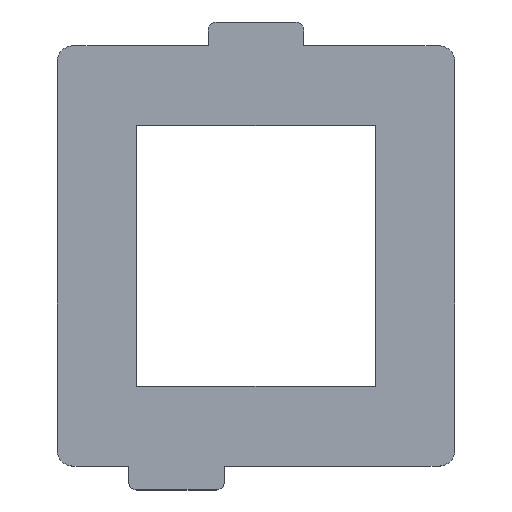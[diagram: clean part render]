
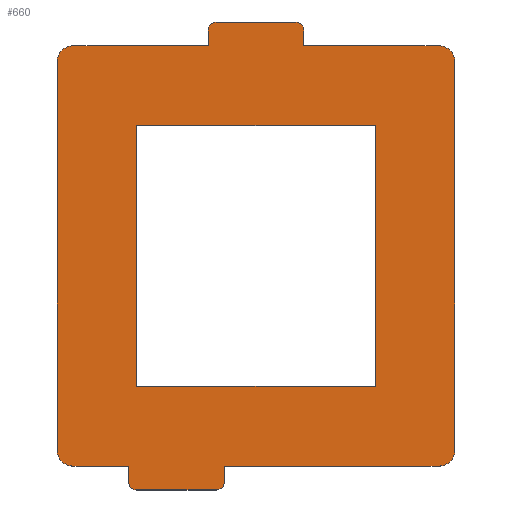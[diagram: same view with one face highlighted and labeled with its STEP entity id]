
A CAD part, top view. The second image highlights one B-rep face of the part: STEP entity #660.
In plain terms, the highlighted planar face has unit normal (0, 0, 1).
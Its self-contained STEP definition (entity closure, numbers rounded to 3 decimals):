
#24=FACE_BOUND('',#128,.T.);
#46=PLANE('',#738);
#82=FACE_OUTER_BOUND('',#127,.T.);
#127=EDGE_LOOP('',(#587,#588,#589,#590,#591,#592,#593,#594,#595,#596,#597,
#598,#599,#600,#601,#602,#603,#604,#605,#606));
#128=EDGE_LOOP('',(#607,#608,#609,#610));
#147=LINE('',#997,#209);
#153=LINE('',#1012,#215);
#156=LINE('',#1021,#218);
#159=LINE('',#1026,#221);
#160=LINE('',#1029,#222);
#162=LINE('',#1033,#224);
#165=LINE('',#1038,#227);
#166=LINE('',#1040,#228);
#167=LINE('',#1043,#229);
#170=LINE('',#1048,#232);
#174=LINE('',#1065,#236);
#178=LINE('',#1076,#240);
#184=LINE('',#1105,#246);
#186=LINE('',#1109,#248);
#188=LINE('',#1113,#250);
#190=LINE('',#1116,#252);
#209=VECTOR('',#791,10.);
#215=VECTOR('',#807,10.);
#218=VECTOR('',#816,10.);
#221=VECTOR('',#821,10.);
#222=VECTOR('',#824,10.);
#224=VECTOR('',#828,10.);
#227=VECTOR('',#833,10.);
#228=VECTOR('',#836,10.);
#229=VECTOR('',#839,10.);
#232=VECTOR('',#844,10.);
#236=VECTOR('',#862,10.);
#240=VECTOR('',#876,10.);
#246=VECTOR('',#916,10.);
#248=VECTOR('',#920,10.);
#250=VECTOR('',#924,10.);
#252=VECTOR('',#928,10.);
#253=CIRCLE('',#676,0.5);
#266=CIRCLE('',#692,0.5);
#267=CIRCLE('',#694,0.5);
#268=CIRCLE('',#697,0.5);
#273=CIRCLE('',#714,1.);
#274=CIRCLE('',#716,1.);
#275=CIRCLE('',#719,1.);
#276=CIRCLE('',#721,1.);
#281=VERTEX_POINT('',#933);
#282=VERTEX_POINT('',#934);
#311=VERTEX_POINT('',#996);
#312=VERTEX_POINT('',#1000);
#313=VERTEX_POINT('',#1004);
#314=VERTEX_POINT('',#1005);
#315=VERTEX_POINT('',#1010);
#316=VERTEX_POINT('',#1014);
#317=VERTEX_POINT('',#1015);
#318=VERTEX_POINT('',#1020);
#319=VERTEX_POINT('',#1024);
#320=VERTEX_POINT('',#1028);
#321=VERTEX_POINT('',#1032);
#322=VERTEX_POINT('',#1036);
#323=VERTEX_POINT('',#1042);
#324=VERTEX_POINT('',#1046);
#329=VERTEX_POINT('',#1062);
#330=VERTEX_POINT('',#1064);
#331=VERTEX_POINT('',#1070);
#332=VERTEX_POINT('',#1074);
#337=VERTEX_POINT('',#1102);
#338=VERTEX_POINT('',#1104);
#339=VERTEX_POINT('',#1108);
#340=VERTEX_POINT('',#1112);
#341=EDGE_CURVE('',#281,#282,#253,.T.);
#372=EDGE_CURVE('',#311,#282,#147,.T.);
#374=EDGE_CURVE('',#311,#312,#266,.T.);
#376=EDGE_CURVE('',#313,#314,#267,.T.);
#380=EDGE_CURVE('',#313,#315,#153,.T.);
#381=EDGE_CURVE('',#316,#317,#268,.T.);
#384=EDGE_CURVE('',#318,#317,#156,.T.);
#387=EDGE_CURVE('',#281,#319,#159,.T.);
#388=EDGE_CURVE('',#320,#312,#160,.T.);
#390=EDGE_CURVE('',#321,#320,#162,.T.);
#393=EDGE_CURVE('',#319,#322,#165,.T.);
#394=EDGE_CURVE('',#316,#314,#166,.T.);
#395=EDGE_CURVE('',#323,#318,#167,.T.);
#398=EDGE_CURVE('',#315,#324,#170,.T.);
#406=EDGE_CURVE('',#330,#329,#174,.T.);
#408=EDGE_CURVE('',#323,#329,#273,.T.);
#409=EDGE_CURVE('',#331,#324,#274,.T.);
#412=EDGE_CURVE('',#331,#332,#178,.T.);
#413=EDGE_CURVE('',#330,#322,#275,.T.);
#414=EDGE_CURVE('',#321,#332,#276,.T.);
#424=EDGE_CURVE('',#338,#337,#184,.T.);
#426=EDGE_CURVE('',#339,#338,#186,.T.);
#428=EDGE_CURVE('',#340,#339,#188,.T.);
#430=EDGE_CURVE('',#337,#340,#190,.T.);
#587=ORIENTED_EDGE('',*,*,#341,.F.);
#588=ORIENTED_EDGE('',*,*,#387,.T.);
#589=ORIENTED_EDGE('',*,*,#393,.T.);
#590=ORIENTED_EDGE('',*,*,#413,.F.);
#591=ORIENTED_EDGE('',*,*,#406,.T.);
#592=ORIENTED_EDGE('',*,*,#408,.F.);
#593=ORIENTED_EDGE('',*,*,#395,.T.);
#594=ORIENTED_EDGE('',*,*,#384,.T.);
#595=ORIENTED_EDGE('',*,*,#381,.F.);
#596=ORIENTED_EDGE('',*,*,#394,.T.);
#597=ORIENTED_EDGE('',*,*,#376,.F.);
#598=ORIENTED_EDGE('',*,*,#380,.T.);
#599=ORIENTED_EDGE('',*,*,#398,.T.);
#600=ORIENTED_EDGE('',*,*,#409,.F.);
#601=ORIENTED_EDGE('',*,*,#412,.T.);
#602=ORIENTED_EDGE('',*,*,#414,.F.);
#603=ORIENTED_EDGE('',*,*,#390,.T.);
#604=ORIENTED_EDGE('',*,*,#388,.T.);
#605=ORIENTED_EDGE('',*,*,#374,.F.);
#606=ORIENTED_EDGE('',*,*,#372,.T.);
#607=ORIENTED_EDGE('',*,*,#430,.T.);
#608=ORIENTED_EDGE('',*,*,#428,.T.);
#609=ORIENTED_EDGE('',*,*,#426,.T.);
#610=ORIENTED_EDGE('',*,*,#424,.T.);
#660=ADVANCED_FACE('',(#82,#24),#46,.T.);
#676=AXIS2_PLACEMENT_3D('',#935,#743,#744);
#692=AXIS2_PLACEMENT_3D('',#1001,#795,#796);
#694=AXIS2_PLACEMENT_3D('',#1006,#800,#801);
#697=AXIS2_PLACEMENT_3D('',#1016,#810,#811);
#714=AXIS2_PLACEMENT_3D('',#1068,#866,#867);
#716=AXIS2_PLACEMENT_3D('',#1071,#870,#871);
#719=AXIS2_PLACEMENT_3D('',#1078,#879,#880);
#721=AXIS2_PLACEMENT_3D('',#1080,#883,#884);
#738=AXIS2_PLACEMENT_3D('',#1117,#929,#930);
#743=DIRECTION('center_axis',(0.,0.,-1.));
#744=DIRECTION('ref_axis',(-0.707,0.707,0.));
#791=DIRECTION('',(-1.,0.,0.));
#795=DIRECTION('center_axis',(0.,0.,-1.));
#796=DIRECTION('ref_axis',(0.707,0.707,0.));
#800=DIRECTION('center_axis',(0.,0.,-1.));
#801=DIRECTION('ref_axis',(0.707,-0.707,0.));
#807=DIRECTION('',(0.,1.,0.));
#810=DIRECTION('center_axis',(0.,0.,-1.));
#811=DIRECTION('ref_axis',(-0.707,-0.707,0.));
#816=DIRECTION('',(0.,-1.,0.));
#821=DIRECTION('',(0.,-1.,0.));
#824=DIRECTION('',(0.,1.,0.));
#828=DIRECTION('',(-1.,0.,0.));
#833=DIRECTION('',(-1.,0.,0.));
#836=DIRECTION('',(1.,0.,0.));
#839=DIRECTION('',(1.,0.,0.));
#844=DIRECTION('',(1.,0.,0.));
#862=DIRECTION('',(0.,-1.,0.));
#866=DIRECTION('center_axis',(0.,0.,-1.));
#867=DIRECTION('ref_axis',(-0.707,-0.707,0.));
#870=DIRECTION('center_axis',(0.,0.,-1.));
#871=DIRECTION('ref_axis',(0.707,-0.707,0.));
#876=DIRECTION('',(0.,1.,0.));
#879=DIRECTION('center_axis',(0.,0.,-1.));
#880=DIRECTION('ref_axis',(-0.707,0.707,0.));
#883=DIRECTION('center_axis',(0.,0.,-1.));
#884=DIRECTION('ref_axis',(0.707,0.707,0.));
#916=DIRECTION('',(0.,-1.,0.));
#920=DIRECTION('',(1.,0.,0.));
#924=DIRECTION('',(0.,1.,0.));
#928=DIRECTION('',(-1.,0.,0.));
#929=DIRECTION('center_axis',(0.,0.,1.));
#930=DIRECTION('ref_axis',(1.,0.,0.));
#933=CARTESIAN_POINT('',(-3.,13.5,3.));
#934=CARTESIAN_POINT('',(-2.5,14.,3.));
#935=CARTESIAN_POINT('Origin',(-2.5,13.5,3.));
#996=CARTESIAN_POINT('',(2.5,14.,3.));
#997=CARTESIAN_POINT('',(-3.,14.,3.));
#1000=CARTESIAN_POINT('',(3.,13.5,3.));
#1001=CARTESIAN_POINT('Origin',(2.5,13.5,3.));
#1004=CARTESIAN_POINT('',(-2.,-14.9,3.));
#1005=CARTESIAN_POINT('',(-2.5,-15.4,3.));
#1006=CARTESIAN_POINT('Origin',(-2.5,-14.9,3.));
#1010=CARTESIAN_POINT('',(-2.,-13.9,3.));
#1012=CARTESIAN_POINT('',(-2.,-12.4,3.));
#1014=CARTESIAN_POINT('',(-7.5,-15.4,3.));
#1015=CARTESIAN_POINT('',(-8.,-14.9,3.));
#1016=CARTESIAN_POINT('Origin',(-7.5,-14.9,3.));
#1020=CARTESIAN_POINT('',(-8.,-13.9,3.));
#1021=CARTESIAN_POINT('',(-8.,-15.4,3.));
#1024=CARTESIAN_POINT('',(-3.,12.5,3.));
#1026=CARTESIAN_POINT('',(-3.,11.,3.));
#1028=CARTESIAN_POINT('',(3.,12.5,3.));
#1029=CARTESIAN_POINT('',(3.,14.,3.));
#1032=CARTESIAN_POINT('',(11.5,12.5,3.));
#1033=CARTESIAN_POINT('',(12.5,12.5,3.));
#1036=CARTESIAN_POINT('',(-11.5,12.5,3.));
#1038=CARTESIAN_POINT('',(12.5,12.5,3.));
#1040=CARTESIAN_POINT('',(-2.,-15.4,3.));
#1042=CARTESIAN_POINT('',(-11.5,-13.9,3.));
#1043=CARTESIAN_POINT('',(-12.5,-13.9,3.));
#1046=CARTESIAN_POINT('',(11.5,-13.9,3.));
#1048=CARTESIAN_POINT('',(-12.5,-13.9,3.));
#1062=CARTESIAN_POINT('',(-12.5,-12.9,3.));
#1064=CARTESIAN_POINT('',(-12.5,11.5,3.));
#1065=CARTESIAN_POINT('',(-12.5,12.5,3.));
#1068=CARTESIAN_POINT('Origin',(-11.5,-12.9,3.));
#1070=CARTESIAN_POINT('',(12.5,-12.9,3.));
#1071=CARTESIAN_POINT('Origin',(11.5,-12.9,3.));
#1074=CARTESIAN_POINT('',(12.5,11.5,3.));
#1076=CARTESIAN_POINT('',(12.5,-13.9,3.));
#1078=CARTESIAN_POINT('Origin',(-11.5,11.5,3.));
#1080=CARTESIAN_POINT('Origin',(11.5,11.5,3.));
#1102=CARTESIAN_POINT('',(7.5,-8.9,3.));
#1104=CARTESIAN_POINT('',(7.5,7.5,3.));
#1105=CARTESIAN_POINT('',(7.5,-8.9,3.));
#1108=CARTESIAN_POINT('',(-7.5,7.5,3.));
#1109=CARTESIAN_POINT('',(7.5,7.5,3.));
#1112=CARTESIAN_POINT('',(-7.5,-8.9,3.));
#1113=CARTESIAN_POINT('',(-7.5,7.5,3.));
#1116=CARTESIAN_POINT('',(-7.5,-8.9,3.));
#1117=CARTESIAN_POINT('Origin',(0.,-0.7,
3.));
